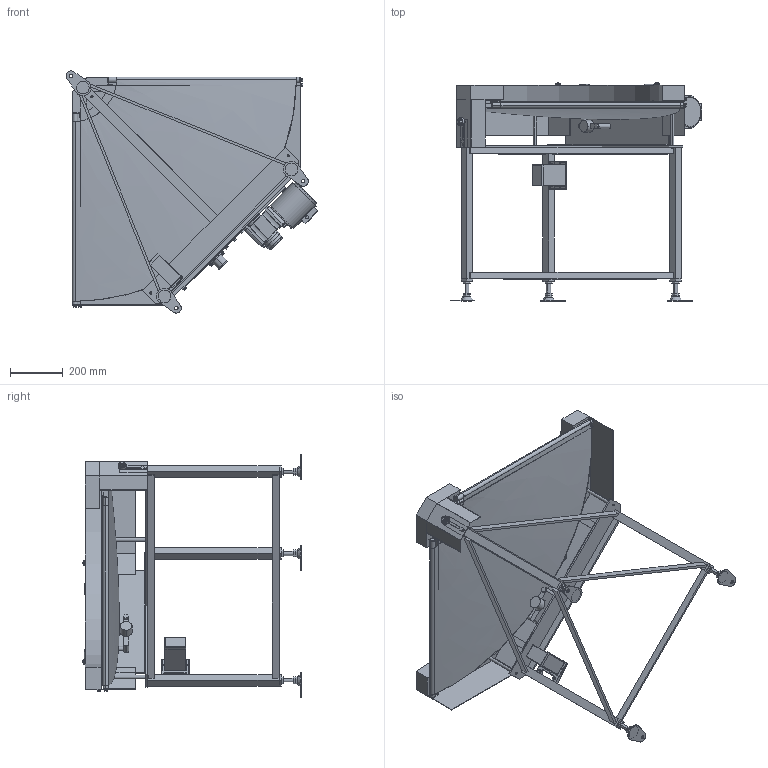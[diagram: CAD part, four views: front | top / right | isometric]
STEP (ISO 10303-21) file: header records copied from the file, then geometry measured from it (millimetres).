
FILE_DESCRIPTION (( 'STEP AP214' ), '1' );
FILE_NAME ('MMBC3-HS-310-600-90°-R-IV-120.STEP', '2023-01-23T01:59:04', ( '' ), ( '' ), 'SwSTEP 2.0', 'SolidWorks 2017', '' );
FILE_SCHEMA (( 'AUTOMOTIVE_DESIGN' ));
Length unit declared in the file: millimetre
Products named in the file (1): MMBC3-HS-310-600-90°-R-IV-120
Bounding box: 954.09 x 827.92 x 917.51 mm (x, y, z)
Volume: 20469596.4 mm3; surface area: 5677280.9 mm2
Topology: 43 solids, 43 shells, 1287 faces, 3090 edges, 2004 vertices
Faces by surface type: plane 744, cylinder 399, cone 63, bspline 59, torus 12, sphere 10
Entity records: 44315 total; most frequent: CARTESIAN_POINT 13567, DIRECTION 6296, ORIENTED_EDGE 6152, EDGE_CURVE 3076, AXIS2_PLACEMENT_3D 2180, VERTEX_POINT 2004, VECTOR 1936, LINE 1936
